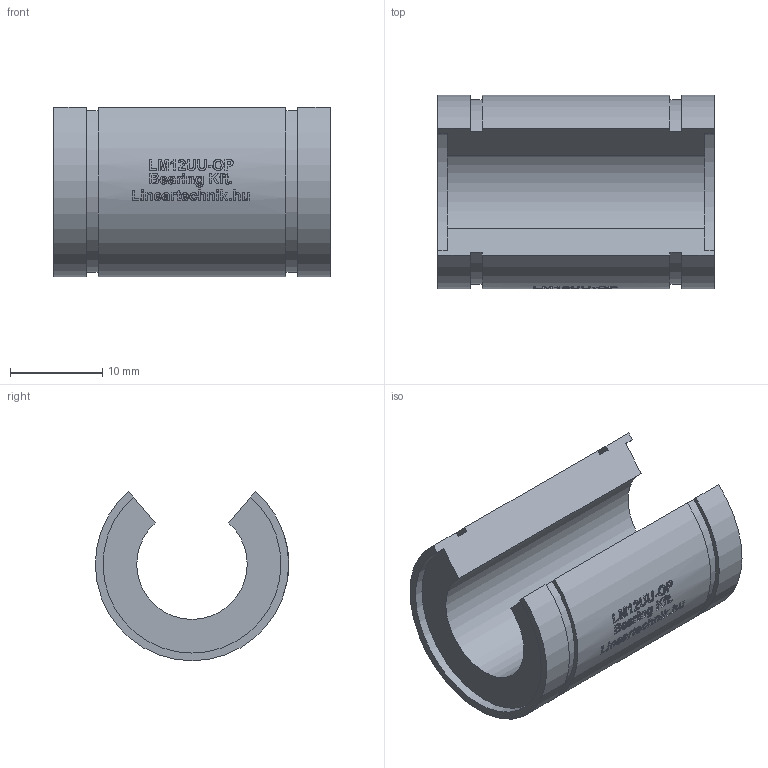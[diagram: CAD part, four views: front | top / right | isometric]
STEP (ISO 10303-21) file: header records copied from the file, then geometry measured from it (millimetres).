
FILE_DESCRIPTION(/* description */ (''),/* implementation_level */ '2;1');
FILE_NAME(/* name */ 'LM12UU-OP',/* time_stamp */ '2019-07-10T16:11:02+02:00',/* author */ ('VĂ©gh MĂˇtĂ©'),/* organization */ ('Bearing Kft'),/* preprocessor_version */ 'ST-DEVELOPER v16.7',/* originating_system */ 'DEX',/* authorisation */ $);
FILE_SCHEMA (('AUTOMOTIVE_DESIGN {1 0 10303 214 3 1 1}'));
Length unit declared in the file: millimetre
Products named in the file (1): LM12UU-OP
Bounding box: 30 x 21 x 18.42 mm (x, y, z)
Volume: 5048.1 mm3; surface area: 3153 mm2
Topology: 1 solids, 1 shells, 325 faces, 822 edges, 547 vertices
Faces by surface type: plane 173, bspline 95, cylinder 57
Entity records: 15056 total; most frequent: CARTESIAN_POINT 7688, ORIENTED_EDGE 1638, DIRECTION 1251, EDGE_CURVE 819, VERTEX_POINT 547, LINE 465, VECTOR 465, AXIS2_PLACEMENT_3D 393
